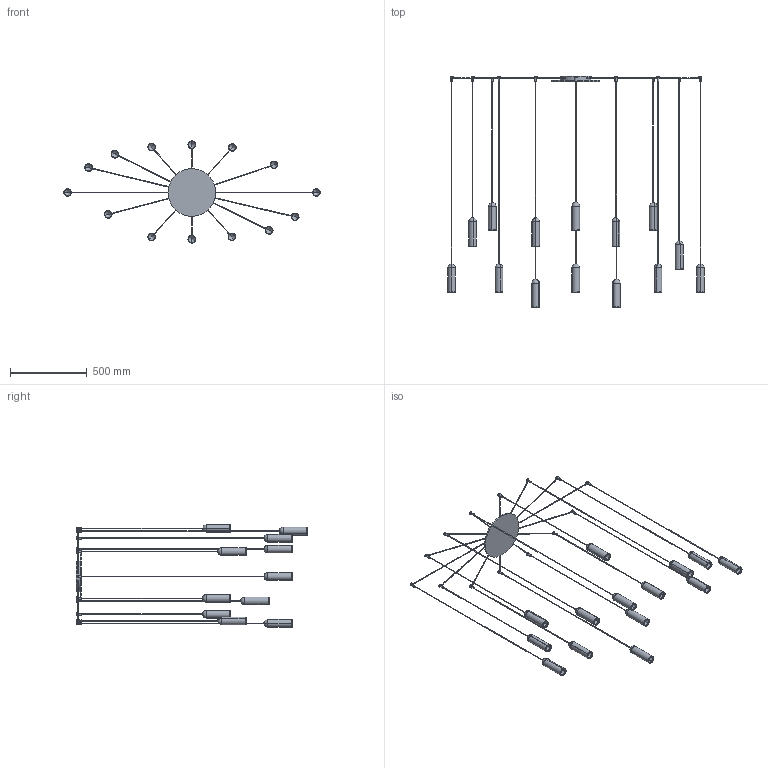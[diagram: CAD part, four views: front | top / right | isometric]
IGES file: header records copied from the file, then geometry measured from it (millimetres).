
Start section: SolidWorks IGES file using analytic representation for surfaces
Global section: file name: Y:\eforma\TECNICO\SOLIDWORKS\E-FORMA\09-LAMPADE\NANUM\02 parts\NANA9-00-NANUM_14_A sospensione.IGS; native system: SolidWorks 2022; preprocessor: SolidWorks 2022; author: eforma.tech; date: 250505.164149; units: millimetre
Bounding box: 1667 x 1504.5 x 664.5 mm (x, y, z)
Volume: 2799983.2 mm3; surface area: 1313015.6 mm2
Topology: 43 solids, 43 shells, 535 faces, 1052 edges, 604 vertices
Faces by surface type: revolution 420, plane 115
